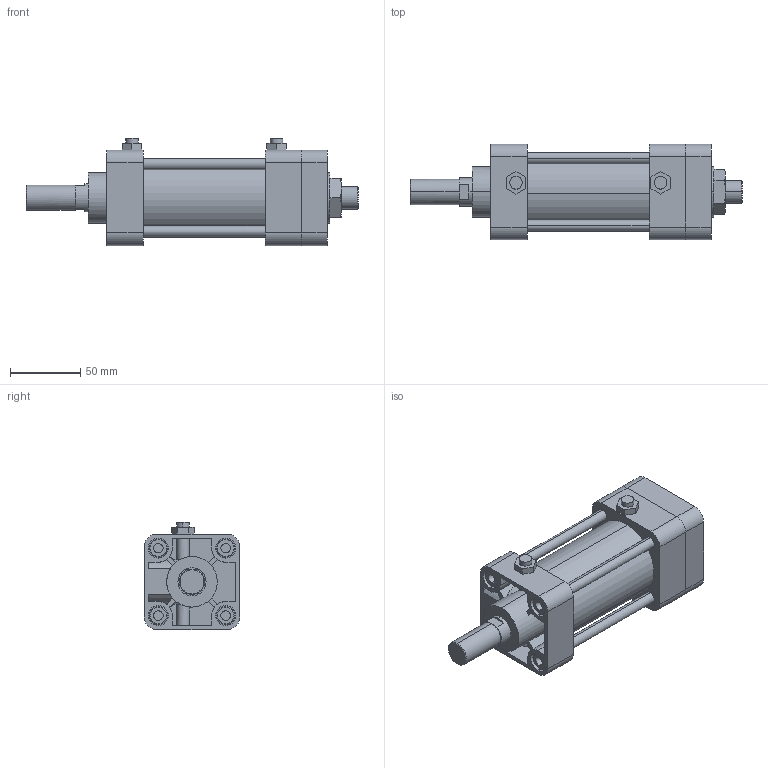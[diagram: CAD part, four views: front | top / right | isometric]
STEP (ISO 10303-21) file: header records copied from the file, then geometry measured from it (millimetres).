
FILE_DESCRIPTION (( 'STEP AP203' ), '1' );
FILE_NAME ('KGA2-50#-50-N.STEP', '2016-04-14T07:40:02', ( '' ), ( '' ), 'SwSTEP 2.0', 'SolidWorks 2014', '' );
FILE_SCHEMA (( 'CONFIG_CONTROL_DESIGN' ));
Length unit declared in the file: millimetre
Products named in the file (7): KGA2-50#-50-N; KG2-50-After; KGA2-50-After; KGLH2-50-50
Assembly tree (16 placements, depth 2):
  KGA2-50#-50-N
    KG2-50-After
    KGLH2-50-50
    (unnamed)
    (unnamed)  x4
    (unnamed)  x8
    KGA2-50-After
Bounding box: 236.5 x 68 x 76.3 mm (x, y, z)
Volume: 523589.9 mm3; surface area: 116088.5 mm2
Topology: 16 solids, 20 shells, 364 faces, 846 edges, 540 vertices
Faces by surface type: plane 156, cylinder 142, torus 38, cone 28
Entity records: 9353 total; most frequent: CARTESIAN_POINT 1797, DIRECTION 1432, ORIENTED_EDGE 1312, EDGE_CURVE 656, AXIS2_PLACEMENT_3D 537, VERTEX_POINT 430, VECTOR 358, LINE 358
